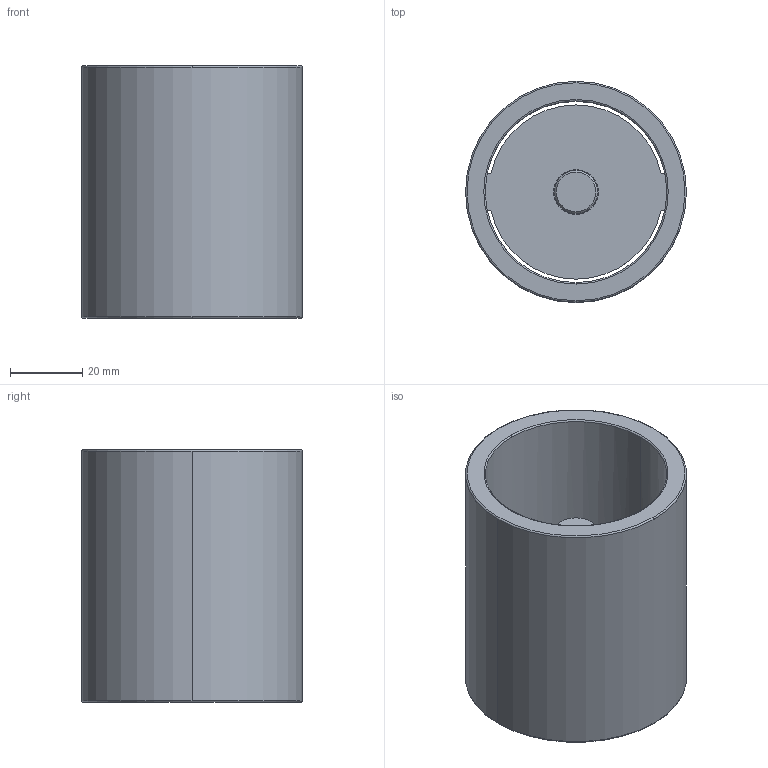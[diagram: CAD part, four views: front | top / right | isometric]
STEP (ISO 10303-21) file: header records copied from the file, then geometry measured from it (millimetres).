
FILE_DESCRIPTION((''),'2;1');
FILE_NAME('C11_050_070.stp','2009-01-12T09:45:16',(''),(''),'Mechanical Desktop 2009','Mechanical Desktop 2009',', , ');
FILE_SCHEMA(('CONFIG_CONTROL_DESIGN'));
Length unit declared in the file: millimetre
Products named in the file (2): Product; blmdl1
Assembly tree (1 placements, depth 2):
  Product
    blmdl1
Bounding box: 61.25 x 61.25 x 70 mm (x, y, z)
Volume: 74526.2 mm3; surface area: 32652.6 mm2
Topology: 3 solids, 3 shells, 44 faces, 110 edges, 74 vertices
Faces by surface type: cylinder 16, plane 16, torus 10, cone 2
Entity records: 1507 total; most frequent: CARTESIAN_POINT 274, DIRECTION 266, ORIENTED_EDGE 220, AXIS2_PLACEMENT_3D 114, EDGE_CURVE 110, VERTEX_POINT 74, CIRCLE 68, EDGE_LOOP 50
